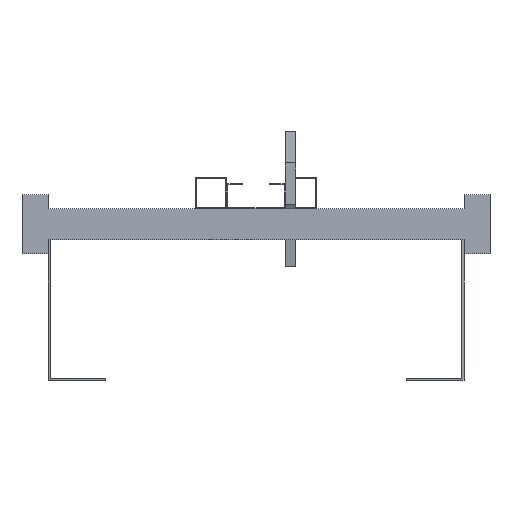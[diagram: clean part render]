
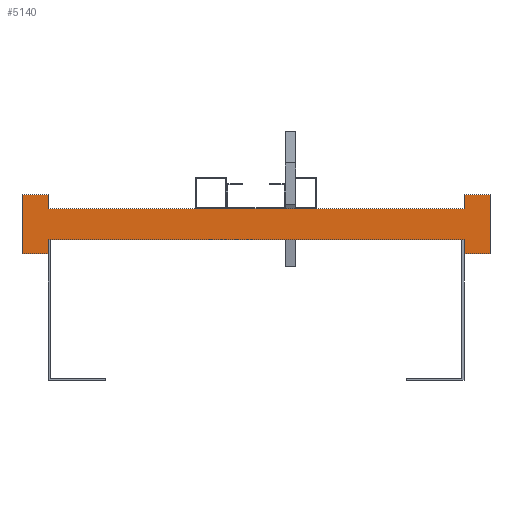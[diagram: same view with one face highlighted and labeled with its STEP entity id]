
A CAD part, front view. The second image highlights one B-rep face of the part: STEP entity #5140.
In plain terms, the highlighted planar face has unit normal (0, -1, 0).
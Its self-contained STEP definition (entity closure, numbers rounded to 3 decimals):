
#1845=DIRECTION('',(0.,0.,1.));
#1846=VECTOR('',#1845,13.5);
#1847=CARTESIAN_POINT('',(200.,0.,-28.5));
#1848=LINE('',#1847,#1846);
#1849=DIRECTION('',(0.,0.,-1.));
#1850=VECTOR('',#1849,13.5);
#1851=CARTESIAN_POINT('',(-200.,0.,-15.));
#1852=LINE('',#1851,#1850);
#1853=DIRECTION('',(-1.,0.,0.));
#1854=VECTOR('',#1853,25.);
#1855=CARTESIAN_POINT('',(-200.,0.,-28.5));
#1856=LINE('',#1855,#1854);
#1857=DIRECTION('',(0.,0.,1.));
#1858=VECTOR('',#1857,57.);
#1859=CARTESIAN_POINT('',(-225.,0.,-28.5));
#1860=LINE('',#1859,#1858);
#1861=DIRECTION('',(1.,0.,0.));
#1862=VECTOR('',#1861,25.);
#1863=CARTESIAN_POINT('',(-225.,0.,28.5));
#1864=LINE('',#1863,#1862);
#1865=DIRECTION('',(0.,0.,-1.));
#1866=VECTOR('',#1865,13.5);
#1867=CARTESIAN_POINT('',(-200.,0.,28.5));
#1868=LINE('',#1867,#1866);
#1869=DIRECTION('',(0.,0.,1.));
#1870=VECTOR('',#1869,13.5);
#1871=CARTESIAN_POINT('',(200.,0.,15.));
#1872=LINE('',#1871,#1870);
#1873=DIRECTION('',(1.,0.,0.));
#1874=VECTOR('',#1873,25.);
#1875=CARTESIAN_POINT('',(200.,0.,28.5));
#1876=LINE('',#1875,#1874);
#1877=DIRECTION('',(0.,0.,-1.));
#1878=VECTOR('',#1877,57.);
#1879=CARTESIAN_POINT('',(225.,0.,28.5));
#1880=LINE('',#1879,#1878);
#1881=DIRECTION('',(-1.,0.,0.));
#1882=VECTOR('',#1881,25.);
#1883=CARTESIAN_POINT('',(225.,0.,-28.5));
#1884=LINE('',#1883,#1882);
#1885=DIRECTION('',(1.,0.,0.));
#1886=VECTOR('',#1885,400.);
#1887=CARTESIAN_POINT('',(-200.,0.,-15.));
#1888=LINE('',#1887,#1886);
#1897=DIRECTION('',(1.,0.,0.));
#1898=VECTOR('',#1897,400.);
#1899=CARTESIAN_POINT('',(-200.,0.,15.));
#1900=LINE('',#1899,#1898);
#1953=CARTESIAN_POINT('',(-225.,0.,28.5));
#1954=CARTESIAN_POINT('',(-200.,0.,28.5));
#1955=VERTEX_POINT('',#1953);
#1956=VERTEX_POINT('',#1954);
#1957=CARTESIAN_POINT('',(-200.,0.,-28.5));
#1958=CARTESIAN_POINT('',(-225.,0.,-28.5));
#1959=VERTEX_POINT('',#1957);
#1960=VERTEX_POINT('',#1958);
#1961=CARTESIAN_POINT('',(225.,0.,28.5));
#1962=CARTESIAN_POINT('',(225.,0.,-28.5));
#1963=VERTEX_POINT('',#1961);
#1964=VERTEX_POINT('',#1962);
#1965=CARTESIAN_POINT('',(200.,0.,-28.5));
#1966=VERTEX_POINT('',#1965);
#1967=CARTESIAN_POINT('',(200.,0.,28.5));
#1968=VERTEX_POINT('',#1967);
#1985=CARTESIAN_POINT('',(-200.,0.,-15.));
#1987=VERTEX_POINT('',#1985);
#1989=CARTESIAN_POINT('',(-200.,0.,15.));
#1991=VERTEX_POINT('',#1989);
#1993=CARTESIAN_POINT('',(200.,0.,-15.));
#1995=VERTEX_POINT('',#1993);
#1997=CARTESIAN_POINT('',(200.,0.,15.));
#1999=VERTEX_POINT('',#1997);
#5115=CARTESIAN_POINT('',(0.,0.,0.));
#5116=DIRECTION('',(0.,1.,0.));
#5117=DIRECTION('',(1.,0.,0.));
#5118=AXIS2_PLACEMENT_3D('',#5115,#5116,#5117);
#5119=PLANE('',#5118);
#5120=ORIENTED_EDGE('',*,*,#2941,.T.);
#5122=ORIENTED_EDGE('',*,*,#5121,.F.);
#5123=ORIENTED_EDGE('',*,*,#2633,.T.);
#5124=ORIENTED_EDGE('',*,*,#4106,.T.);
#5126=ORIENTED_EDGE('',*,*,#5125,.T.);
#5128=ORIENTED_EDGE('',*,*,#5127,.T.);
#5129=ORIENTED_EDGE('',*,*,#2641,.T.);
#5131=ORIENTED_EDGE('',*,*,#5130,.T.);
#5132=ORIENTED_EDGE('',*,*,#2933,.T.);
#5134=ORIENTED_EDGE('',*,*,#5133,.T.);
#5136=ORIENTED_EDGE('',*,*,#5135,.T.);
#5137=ORIENTED_EDGE('',*,*,#4423,.T.);
#5138=EDGE_LOOP('',(#5120,#5122,#5123,#5124,#5126,#5128,#5129,#5131,#5132,#5134,
#5136,#5137));
#5139=FACE_OUTER_BOUND('',#5138,.F.);
#2633=EDGE_CURVE('',#1987,#1959,#1852,.T.);
#2641=EDGE_CURVE('',#1956,#1991,#1868,.T.);
#2933=EDGE_CURVE('',#1999,#1968,#1872,.T.);
#2941=EDGE_CURVE('',#1966,#1995,#1848,.T.);
#4106=EDGE_CURVE('',#1959,#1960,#1856,.T.);
#4423=EDGE_CURVE('',#1964,#1966,#1884,.T.);
#5121=EDGE_CURVE('',#1987,#1995,#1888,.T.);
#5125=EDGE_CURVE('',#1960,#1955,#1860,.T.);
#5127=EDGE_CURVE('',#1955,#1956,#1864,.T.);
#5130=EDGE_CURVE('',#1991,#1999,#1900,.T.);
#5133=EDGE_CURVE('',#1968,#1963,#1876,.T.);
#5135=EDGE_CURVE('',#1963,#1964,#1880,.T.);
#5140=ADVANCED_FACE('',(#5139),#5119,.F.);
